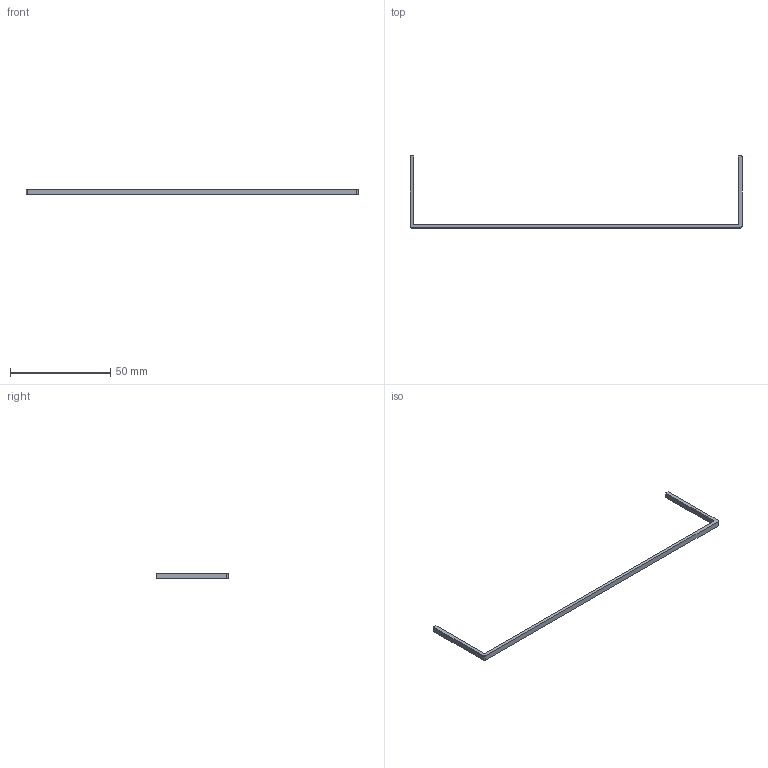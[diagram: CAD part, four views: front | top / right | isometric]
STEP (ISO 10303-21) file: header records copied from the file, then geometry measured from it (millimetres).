
FILE_DESCRIPTION(('Open CASCADE Model'),'2;1');
FILE_NAME('Open CASCADE Shape Model','2026-11-07T14:43:26',('Author'),( 'Open CASCADE'),'Open CASCADE STEP processor 7.9','Open CASCADE 7.9' ,'Unknown');
FILE_SCHEMA(('AUTOMOTIVE_DESIGN { 1 0 10303 214 1 1 1 1 }'));
Length unit declared in the file: millimetre
Products named in the file (1): Open CASCADE STEP translator 7.9 5
Bounding box: 166 x 36 x 2.7 mm (x, y, z)
Volume: 1138.8 mm3; surface area: 2115.9 mm2
Topology: 1 solids, 1 shells, 16 faces, 42 edges, 28 vertices
Faces by surface type: plane 10, cylinder 6
Entity records: 1038 total; most frequent: CARTESIAN_POINT 223, DIRECTION 140, ORIENTED_EDGE 84, PCURVE 84, DEFINITIONAL_REPRESENTATION 84, LINE 74, VECTOR 74, EDGE_CURVE 42
